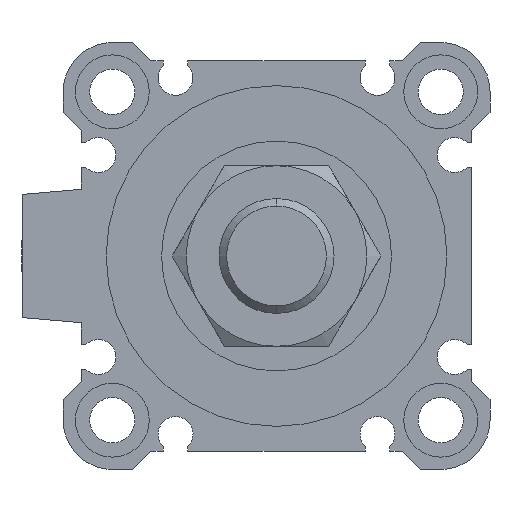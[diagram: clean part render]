
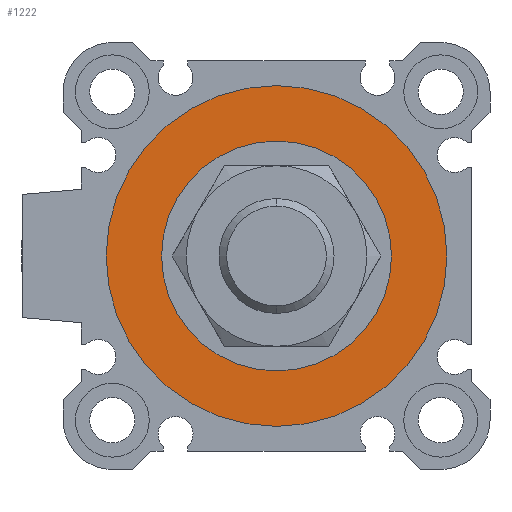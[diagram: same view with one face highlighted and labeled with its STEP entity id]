
A CAD part, left-side view. The second image highlights one B-rep face of the part: STEP entity #1222.
In plain terms, the highlighted planar face has unit normal (-1, 0, 0).
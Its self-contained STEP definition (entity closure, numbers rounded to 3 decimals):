
#148 = DIRECTION ( 'NONE',  ( 0., 0., -1. ) ) ;
#151 = AXIS2_PLACEMENT_3D ( 'NONE', #5801, #949, #3099 ) ;
#153 = VERTEX_POINT ( 'NONE', #5665 ) ;
#450 = EDGE_LOOP ( 'NONE', ( #4605, #2738 ) ) ;
#920 = CIRCLE ( 'NONE', #1817, 20.75 ) ;
#949 = DIRECTION ( 'NONE',  ( 1., 0., 0. ) ) ;
#1222 = ADVANCED_FACE ( 'NONE', ( #4076, #3510 ), #4721, .F. ) ;
#1438 = CARTESIAN_POINT ( 'NONE',  ( 3.3, 0., 0. ) ) ;
#1589 = DIRECTION ( 'NONE',  ( 1., 0., 0. ) ) ;
#1633 = CARTESIAN_POINT ( 'NONE',  ( 3.3, 0., -14. ) ) ;
#1817 = AXIS2_PLACEMENT_3D ( 'NONE', #1438, #6818, #2495 ) ;
#2076 = EDGE_CURVE ( 'NONE', #4184, #5708, #6823, .T. ) ;
#2196 = EDGE_LOOP ( 'NONE', ( #3597, #3341 ) ) ;
#2495 = DIRECTION ( 'NONE',  ( 0., 0., -1. ) ) ;
#2738 = ORIENTED_EDGE ( 'NONE', *, *, #2076, .T. ) ;
#2898 = AXIS2_PLACEMENT_3D ( 'NONE', #6250, #2998, #148 ) ;
#2985 = DIRECTION ( 'NONE',  ( 0., 1., 0. ) ) ;
#2998 = DIRECTION ( 'NONE',  ( 1., 0., 0. ) ) ;
#3099 = DIRECTION ( 'NONE',  ( 0., 0., -1. ) ) ;
#3341 = ORIENTED_EDGE ( 'NONE', *, *, #3403, .F. ) ;
#3403 = EDGE_CURVE ( 'NONE', #153, #5265, #5509, .T. ) ;
#3510 = FACE_BOUND ( 'NONE', #450, .T. ) ;
#3597 = ORIENTED_EDGE ( 'NONE', *, *, #6525, .F. ) ;
#4076 = FACE_OUTER_BOUND ( 'NONE', #2196, .T. ) ;
#4184 = VERTEX_POINT ( 'NONE', #1633 ) ;
#4605 = ORIENTED_EDGE ( 'NONE', *, *, #5999, .T. ) ;
#4688 = DIRECTION ( 'NONE',  ( 1., 0., 0. ) ) ;
#4721 = PLANE ( 'NONE',  #5368 ) ;
#5126 = CARTESIAN_POINT ( 'NONE',  ( 3.3, 0., 20.75 ) ) ;
#5191 = DIRECTION ( 'NONE',  ( 0., 0., -1. ) ) ;
#5265 = VERTEX_POINT ( 'NONE', #5126 ) ;
#5273 = CIRCLE ( 'NONE', #2898, 14. ) ;
#5368 = AXIS2_PLACEMENT_3D ( 'NONE', #6887, #4688, #2985 ) ;
#5509 = CIRCLE ( 'NONE', #5615, 20.75 ) ;
#5615 = AXIS2_PLACEMENT_3D ( 'NONE', #6478, #1589, #5191 ) ;
#5665 = CARTESIAN_POINT ( 'NONE',  ( 3.3, 0., -20.75 ) ) ;
#5708 = VERTEX_POINT ( 'NONE', #6164 ) ;
#5801 = CARTESIAN_POINT ( 'NONE',  ( 3.3, 0., 0. ) ) ;
#5999 = EDGE_CURVE ( 'NONE', #5708, #4184, #5273, .T. ) ;
#6164 = CARTESIAN_POINT ( 'NONE',  ( 3.3, 0., 14. ) ) ;
#6250 = CARTESIAN_POINT ( 'NONE',  ( 3.3, 0., 0. ) ) ;
#6478 = CARTESIAN_POINT ( 'NONE',  ( 3.3, 0., 0. ) ) ;
#6525 = EDGE_CURVE ( 'NONE', #5265, #153, #920, .T. ) ;
#6818 = DIRECTION ( 'NONE',  ( 1., 0., 0. ) ) ;
#6823 = CIRCLE ( 'NONE', #151, 14. ) ;
#6887 = CARTESIAN_POINT ( 'NONE',  ( 3.3, 0., 0. ) ) ;
